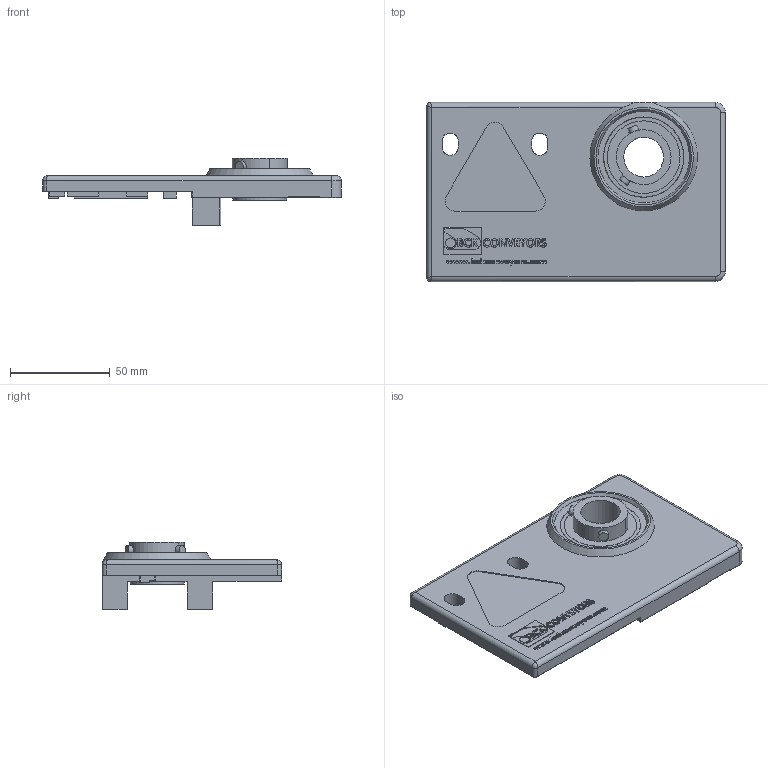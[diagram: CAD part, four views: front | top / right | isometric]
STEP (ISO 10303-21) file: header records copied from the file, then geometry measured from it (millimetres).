
FILE_DESCRIPTION(/* description */ ('End plate R N60 alu incl. FYH'),/* implementation_level */ '2;1');
FILE_NAME(/* name */ 'C:\Users\apromt\Desktop\tekeningen\stp\BE3210010002.stp',/* time_stamp */ '2022-01-19T11:10:10+01:00',/* author */ ('RdGreef'),/* organization */ (''),/* preprocessor_version */ 'ST-DEVELOPER v18.1',/* originating_system */ 'Autodesk Inventor 2022',/* authorisation */ '');
FILE_SCHEMA (('AUTOMOTIVE_DESIGN { 1 0 10303 214 3 1 1 }'));
Length unit declared in the file: millimetre
Products named in the file (4): BE3210010002; BE3210010001; BE3210010001-01; BE3300050001
Assembly tree (3 placements, depth 3):
  BE3210010002
    BE3210010001
      BE3210010001-01
    BE3300050001
Bounding box: 150 x 90 x 33.7 mm (x, y, z)
Volume: 119497.4 mm3; surface area: 42800.8 mm2
Topology: 4 solids, 5 shells, 762 faces, 2021 edges, 1338 vertices
Faces by surface type: plane 377, bspline 303, cylinder 73, torus 4, cone 3, sphere 2
Full cylindrical faces by diameter (mm): 4 x2, 4.9 x1, 5 x2, 6 x2, 20 x1, 25.5 x1, 27 x1, 36.5 x2, 37.5 x1
Entity records: 26312 total; most frequent: CARTESIAN_POINT 9055, ORIENTED_EDGE 4036, DIRECTION 2519, EDGE_CURVE 2018, VERTEX_POINT 1340, LINE 1233, VECTOR 1233, EDGE_LOOP 847
